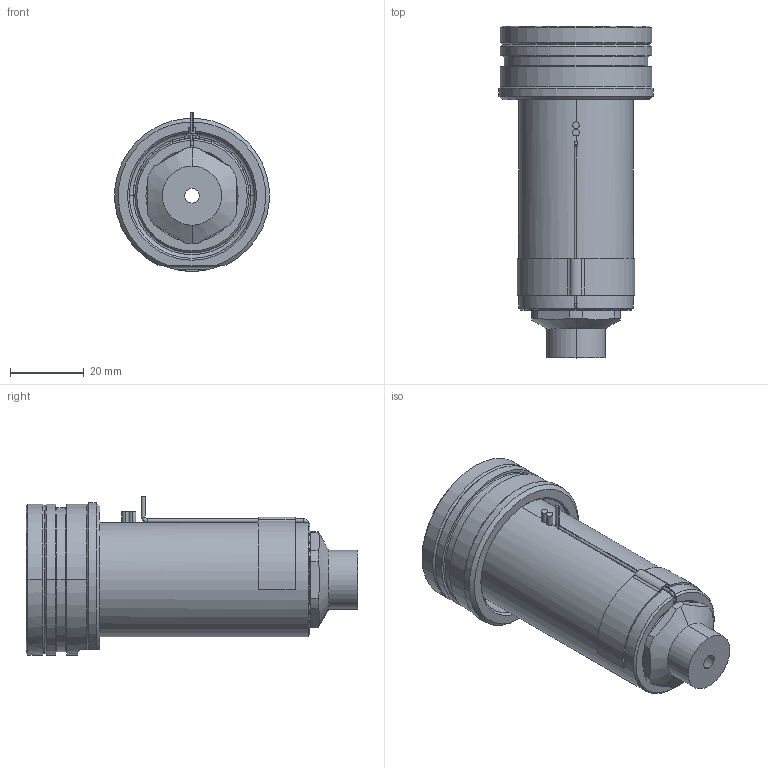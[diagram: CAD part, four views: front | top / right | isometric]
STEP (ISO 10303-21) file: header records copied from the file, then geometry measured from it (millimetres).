
FILE_DESCRIPTION((''),'2;1');
FILE_NAME('EO12_VG-FB_WR_070_SW','2024-02-19T13:39:49',('sundharh'),(''),'CREO PARAMETRIC BY PTC INC, 2023154','CREO PARAMETRIC BY PTC INC, 2023154','');
FILE_SCHEMA(('CONFIG_CONTROL_DESIGN'));
Length unit declared in the file: millimetre
Products named in the file (1): EO12_VG-FB_WR_070_SW
Bounding box: 41.85 x 90 x 43 mm (x, y, z)
Volume: 61344.2 mm3; surface area: 19807.2 mm2
Topology: 2 solids, 3 shells, 210 faces, 519 edges, 314 vertices
Faces by surface type: cylinder 73, plane 48, cone 41, torus 37, bspline 9, sphere 2
Entity records: 7048 total; most frequent: CARTESIAN_POINT 1947, DIRECTION 1142, ORIENTED_EDGE 1034, EDGE_CURVE 517, AXIS2_PLACEMENT_3D 483, VERTEX_POINT 314, CIRCLE 282, EDGE_LOOP 227
